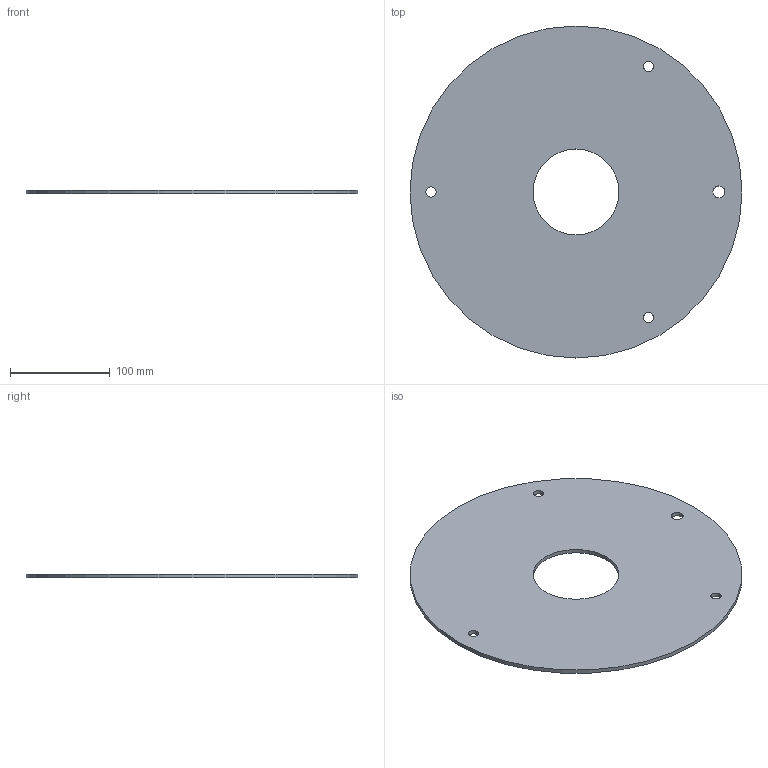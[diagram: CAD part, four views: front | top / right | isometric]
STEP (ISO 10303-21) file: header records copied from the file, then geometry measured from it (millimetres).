
FILE_DESCRIPTION(('Open CASCADE Model'),'2;1');
FILE_NAME('Open CASCADE Shape Model','2026-09-16T16:54:27',('Author'),( 'Open CASCADE'),'Open CASCADE STEP processor 7.8','Open CASCADE 7.8' ,'Unknown');
FILE_SCHEMA(('AUTOMOTIVE_DESIGN { 1 0 10303 214 1 1 1 1 }'));
Length unit declared in the file: millimetre
Products named in the file (1): Open CASCADE STEP translator 7.8 13
Bounding box: 332 x 332 x 4 mm (x, y, z)
Volume: 321610.7 mm3; surface area: 166593.4 mm2
Topology: 1 solids, 1 shells, 8 faces, 18 edges, 12 vertices
Faces by surface type: cylinder 6, plane 2
Full cylindrical faces by diameter (mm): 10.2 x3, 12 x1, 86 x1, 332 x1
Entity records: 525 total; most frequent: CARTESIAN_POINT 129, DIRECTION 75, ORIENTED_EDGE 36, PCURVE 36, DEFINITIONAL_REPRESENTATION 36, LINE 30, VECTOR 30, AXIS2_PLACEMENT_3D 21
